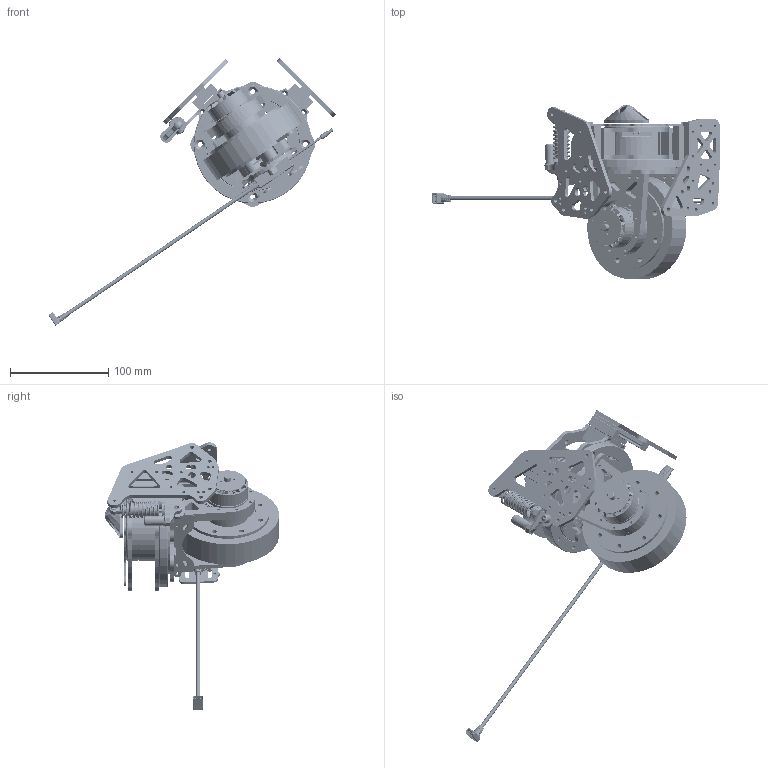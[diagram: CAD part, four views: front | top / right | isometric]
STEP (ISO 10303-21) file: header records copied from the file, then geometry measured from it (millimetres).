
FILE_DESCRIPTION (( 'STEP AP214' ), '1' );
FILE_NAME ('RM2024嗆謫耀輸.', '2024-09-22T15:27:00', ( '' ), ( '' ), 'SwSTEP 2.0', 'SolidWorks 2023', '' );
FILE_SCHEMA (( 'AUTOMOTIVE_DESIGN' ));
Length unit declared in the file: millimetre
Products named in the file (60): motor_hack; HITITECH_90mm_shock_absorber_cap; HITITECH_90mm_shock_absorber_SPRING_TEMPLATE; 6; GFB_4mm_back_1; Copy of Copy of GFB_4mm_motor_conn_0^rudder_Assem1_steering_wheel_full_assem; 餐盘12^rudder_Assem1_steering_wheel_full_assem; GFB_3mm_slider_suspension_conn^rudder_Assem1_steering_wheel_full_assem; 3DP_slider_conn^rudder_Assem1_steering_wheel_full_assem; 1; Part3^wheel; HITITECH_90mm_shock_absorber_Base; rudder^Assem1_steering_wheel_full_assem; MATEING_ASSISTENT; wire_guide^wheel; GFB_4mm_chassis_conn_1^steering_wheel_full_assem; 3dp_wheel_conn_spacer^wheel; RoboMaster GM6020; 8; HITITECH_90mm_shock_absorber_SUM; Copy of 餐盘外^餐盘12_rudder_Assem1_steering_wheel_full_assem; 14; Part1^motor_hack; TPU_slipring_holder_up^rudder_Assem1_steering_wheel_full_assem; M3508_test_默认; cfp_3mm_Si_wheel_holder; 3dp_back; GFB_3mm_slider_conn^rudder_Assem1_steering_wheel_full_assem; GFB_4mm_chassis_conn^steering_wheel_full_assem; 10; GFB_4mm_bearing_holder_upper^rudder_Assem1_steering_wheel_full_assem; Copy of Part7^3508Motor-WheelCouple_wheel; RoboMaster C620 Brushless DC Motor Speed Controller; GFB_3mm_motor_insert; zz-10-19-5; wire protect^rudder_Assem1_steering_wheel_full_assem; mgn12c_01; TPU_slipring_holder_down^rudder_Assem1_steering_wheel_full_assem; wheel; 9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
Assembly tree (74 placements, depth 6):
  RM2024舵轮模块
    Assem1^steering_wheel_full_assem
      rudder^Assem1_steering_wheel_full_assem
        餐盘12^rudder_Assem1_steering_wheel_full_assem
          Copy of 餐盘内^餐盘12_rudder_Assem1_steering_wheel_full_assem
          Copy of 餐盘外^餐盘12_rudder_Assem1_steering_wheel_full_assem
        RoboMaster GM6020
        Copy of Copy of GFB_3mm_motor_front^rudder_Assem1_steering_wheel_full_assem
        Copy of Copy of GFB_4mm_motor_conn_0^rudder_Assem1_steering_wheel_full_assem
        GFB_4mm_bearing_holder_lower^rudder_Assem1_steering_wheel_full_assem
        GFB_4mm_bearing_holder_upper^rudder_Assem1_steering_wheel_full_assem
        GFB_3mm_slider_suspension_conn^rudder_Assem1_steering_wheel_full_assem
        GFB_3mm_slider_conn^rudder_Assem1_steering_wheel_full_assem  x3
        mgn12c_02  x2
        GFB_2mm_steer_drive^rudder_Assem1_steering_wheel_full_assem
        3DP_slider_conn^rudder_Assem1_steering_wheel_full_assem  x2
        wire protect^rudder_Assem1_steering_wheel_full_assem
        TPU_slipring_holder_down^rudder_Assem1_steering_wheel_full_assem
        TPU_slipring_holder_up^rudder_Assem1_steering_wheel_full_assem
      wheel
        GFB_4mm_back_1
        motor_hack
          M3508_gearbox_1--13_默认
          Part1^motor_hack
          cfp_back  x2
          TPU_inner_ring
          M3508_test_默认
          GFB_3mm_motor_insert
        42-62
        new_wheel
        cfp_3mm_Si_wheel_holder
        cfp_3mm_Si_wheel_holder_2
        zz-10-19-5
        3508Motor-WheelCouple^wheel
          Copy of Part5^3508Motor-WheelCouple_wheel  x4
          Copy of Part7^3508Motor-WheelCouple_wheel
          Copy of Part4^3508Motor-WheelCouple_wheel  x2
        3dp_wheel_conn_spacer^wheel
        wire_guide^wheel
        Part3^wheel
        RoboMaster C620 Brushless DC Motor Speed Controller
          2
          5  x4
          9
            1
            14  x3
          7
          6
          8
          10
        3dp_back
      mgn12c_01  x2
    HITITECH_90mm_shock_absorber_SUM
      HITITECH_90mm_shock_absorber_rod
      HITITECH_90mm_shock_absorber_cap
      HITITECH_90mm_shock_absorber_SPRING_TEMPLATE
      MATEING_ASSISTENT
      HITITECH_90mm_shock_absorber_Base
    GFB_4mm_chassis_conn_1^steering_wheel_full_assem
    GFB_4mm_chassis_conn^steering_wheel_full_assem
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Bounding box: 292.31 x 177.2 x 271.76 mm (x, y, z)
Volume: 828488.2 mm3; surface area: 403420 mm2
Topology: 139 solids, 156 shells, 8609 faces, 22608 edges, 14683 vertices
Faces by surface type: plane 3958, cylinder 3058, bspline 1054, cone 323, torus 204, sphere 12
Entity records: 337985 total; most frequent: CARTESIAN_POINT 93329, ORIENTED_EDGE 41958, DIRECTION 37231, EDGE_CURVE 21003, VERTEX_POINT 13673, AXIS2_PLACEMENT_3D 12736, VECTOR 11759, LINE 11759
